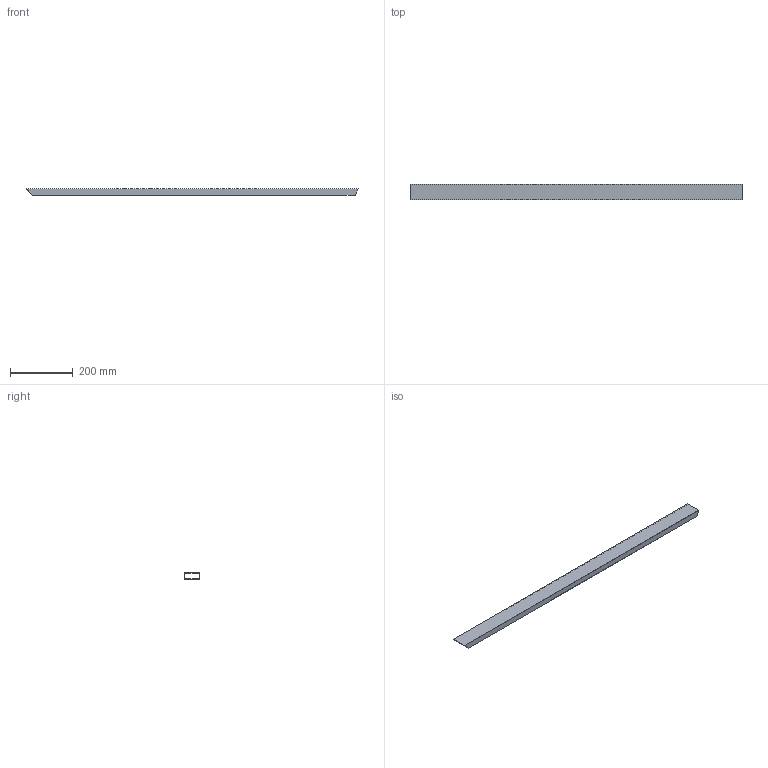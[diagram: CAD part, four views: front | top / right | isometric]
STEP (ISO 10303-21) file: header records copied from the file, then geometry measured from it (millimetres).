
FILE_DESCRIPTION(/* description */ (''),/* implementation_level */ '2;1');
FILE_NAME(/* name */ 'Pos126-Koker 50x20x2 EN 10219-2-S235JRH-1st',/* time_stamp */ '2024-08-06T13:49:48+02:00',/* author */ (''),/* organization */ (''),/* preprocessor_version */ 'ST-DEVELOPER v16.5',/* originating_system */ 'HiCAD 2024 2901.2 Build 361',/* authorisation */ '');
FILE_SCHEMA (('AUTOMOTIVE_DESIGN { 1 0 10303 214 1 1 1 1 }'));
Length unit declared in the file: millimetre
Products named in the file (1): Pos126-Koker 50x20x2 EN 10219-2-S235JRH-1st
Bounding box: 1061.78 x 50 x 20 mm (x, y, z)
Volume: 276409.5 mm3; surface area: 277075.4 mm2
Topology: 1 solids, 1 shells, 10 faces, 24 edges, 16 vertices
Faces by surface type: plane 10
Entity records: 550 total; most frequent: CARTESIAN_POINT 50, PRESENTATION_STYLE_ASSIGNMENT 49, COLOUR_RGB 49, DRAUGHTING_PRE_DEFINED_CURVE_FONT 48, CURVE_STYLE 48, OVER_RIDING_STYLED_ITEM 48, ORIENTED_EDGE 48, DIRECTION 44
